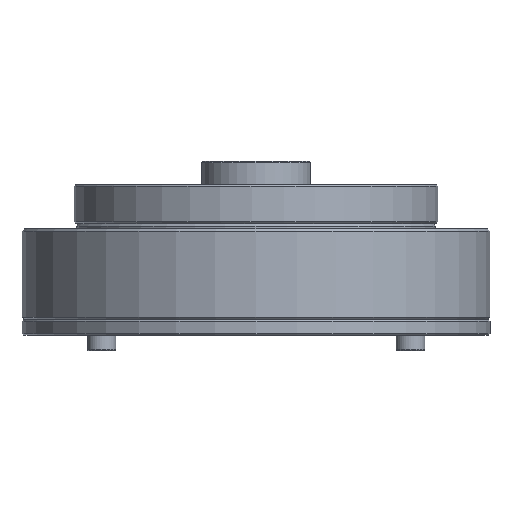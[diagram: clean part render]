
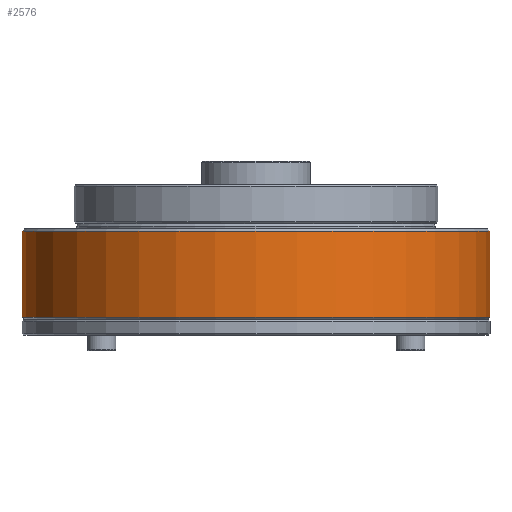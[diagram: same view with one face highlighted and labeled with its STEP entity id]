
A CAD part, front view. The second image highlights one B-rep face of the part: STEP entity #2576.
In plain terms, the highlighted cylindrical face has radius 45 mm (diameter 90 mm), a full revolution.
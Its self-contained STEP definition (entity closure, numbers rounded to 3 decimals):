
#2338=CYLINDRICAL_SURFACE('',#12134,45.);
#2576=ADVANCED_FACE('',(#3638,#3639),#2338,.T.);
#3638=FACE_BOUND('',#4695,.T.);
#3639=FACE_BOUND('',#4696,.T.);
#4695=EDGE_LOOP('',(#6015));
#4696=EDGE_LOOP('',(#6016));
#6015=ORIENTED_EDGE('',*,*,#9874,.F.);
#6016=ORIENTED_EDGE('',*,*,#9873,.T.);
#8751=VERTEX_POINT('',#17540);
#8752=VERTEX_POINT('',#17543);
#9873=EDGE_CURVE('',#8751,#8751,#11256,.T.);
#9874=EDGE_CURVE('',#8752,#8752,#11257,.T.);
#11256=CIRCLE('',#12131,45.);
#11257=CIRCLE('',#12133,45.);
#12131=AXIS2_PLACEMENT_3D('',#17539,#13861,#13862);
#12133=AXIS2_PLACEMENT_3D('',#17542,#13865,#13866);
#12134=AXIS2_PLACEMENT_3D('',#17544,#13867,#13868);
#13861=DIRECTION('',(0.,0.,-1.));
#13862=DIRECTION('',(-1.,0.,0.));
#13865=DIRECTION('',(0.,0.,-1.));
#13866=DIRECTION('',(-1.,0.,0.));
#13867=DIRECTION('',(0.,0.,-1.));
#13868=DIRECTION('',(-1.,0.,0.));
#17539=CARTESIAN_POINT('',(0.,0.,17.));
#17540=CARTESIAN_POINT('',(-45.,0.,17.));
#17542=CARTESIAN_POINT('',(0.,0.,0.5));
#17543=CARTESIAN_POINT('',(-45.,0.,0.5));
#17544=CARTESIAN_POINT('',(0.,0.,0.));
